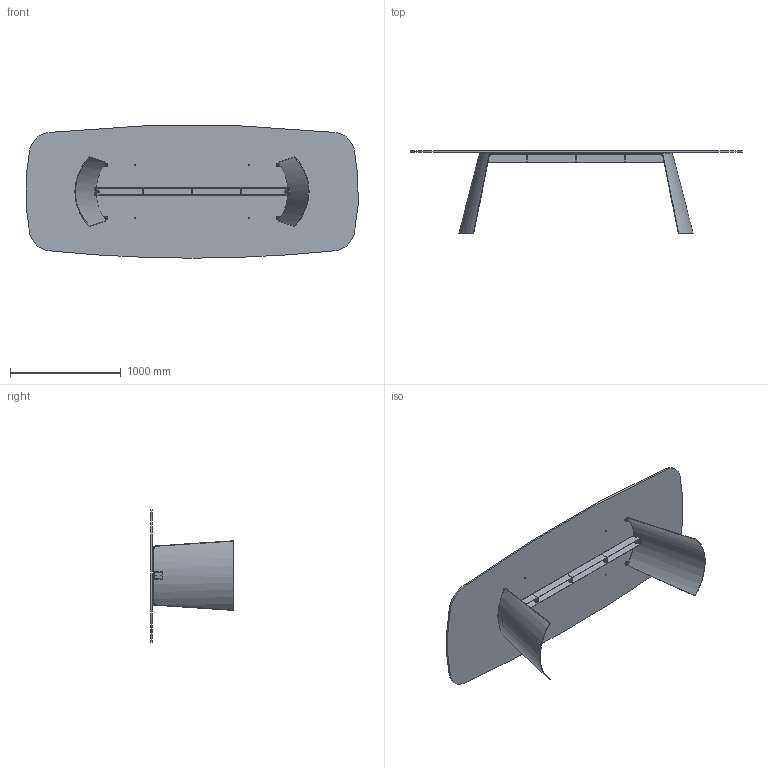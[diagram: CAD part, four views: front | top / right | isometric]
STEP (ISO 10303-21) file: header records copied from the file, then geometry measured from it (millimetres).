
FILE_DESCRIPTION (( 'STEP AP203' ), '1' );
FILE_NAME ('DN44G.STEP', '2024-08-07T15:13:47', ( '' ), ( '' ), 'SwSTEP 2.0', 'SolidWorks 2022', '' );
FILE_SCHEMA (( 'CONFIG_CONTROL_DESIGN' ));
Length unit declared in the file: millimetre
Products named in the file (14): DN44G; DNB300000_01-02-GAMBA DORIAN; SDNB300000-02-GAMBA X TRASP; 434070-00-PIEDINO TPV GOMMA NERO D. 30x8max18; GRANO M8X35_barra; DNBX00000-01-DORIAN TRAVERSO LXXXX PER TAVOLO LX00_L.1770; DNB300000_03-02-PIASTRINA; C4XCRXX-00-Piani Sagomati in Cristallo_3000 x 1200; nut_M8_M8; DNB300000_02-02-RISCONTRO STANGONE CENTRALE; feltro Ø12x3; rondella M8X24; DNB400000-02-ASSIEME STRUTTURA COMPLETA_L.1770; rondella M8_8X16
Assembly tree (37 placements, depth 4):
  DN44G
    C4XCRXX-00-Piani Sagomati in Cristallo_3000 x 1200
    DNB400000-02-ASSIEME STRUTTURA COMPLETA_L.1770
      SDNB300000-02-GAMBA X TRASP  x2
        DNB300000_01-02-GAMBA DORIAN
        DNB300000_02-02-RISCONTRO STANGONE CENTRALE
        DNB300000_03-02-PIASTRINA
      DNBX00000-01-DORIAN TRAVERSO LXXXX PER TAVOLO LX00_L.1770
    434070-00-PIEDINO TPV GOMMA NERO D. 30x8max18  x4
    nut_M8_M8  x8
    rondella M8X24  x4
    GRANO M8X35_barra  x4
    rondella M8_8X16  x4
    feltro Ø12x3  x4
Bounding box: 2991.72 x 745 x 1192.61 mm (x, y, z)
Volume: 56468759.4 mm3; surface area: 9615501.3 mm2
Topology: 47 solids, 47 shells, 619 faces, 1447 edges, 922 vertices
Faces by surface type: plane 262, cylinder 179, torus 80, cone 80, bspline 18
Entity records: 11348 total; most frequent: CARTESIAN_POINT 2207, DIRECTION 1508, ORIENTED_EDGE 1426, EDGE_CURVE 713, AXIS2_PLACEMENT_3D 539, VERTEX_POINT 466, VECTOR 430, LINE 430
